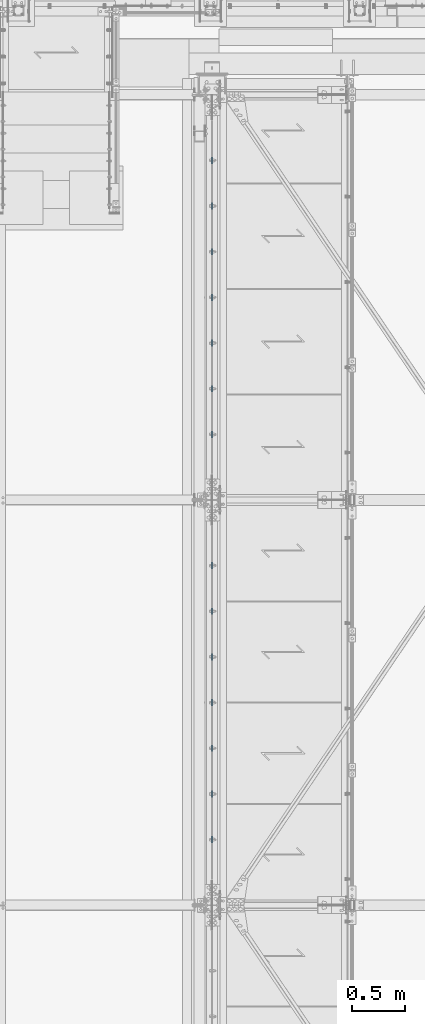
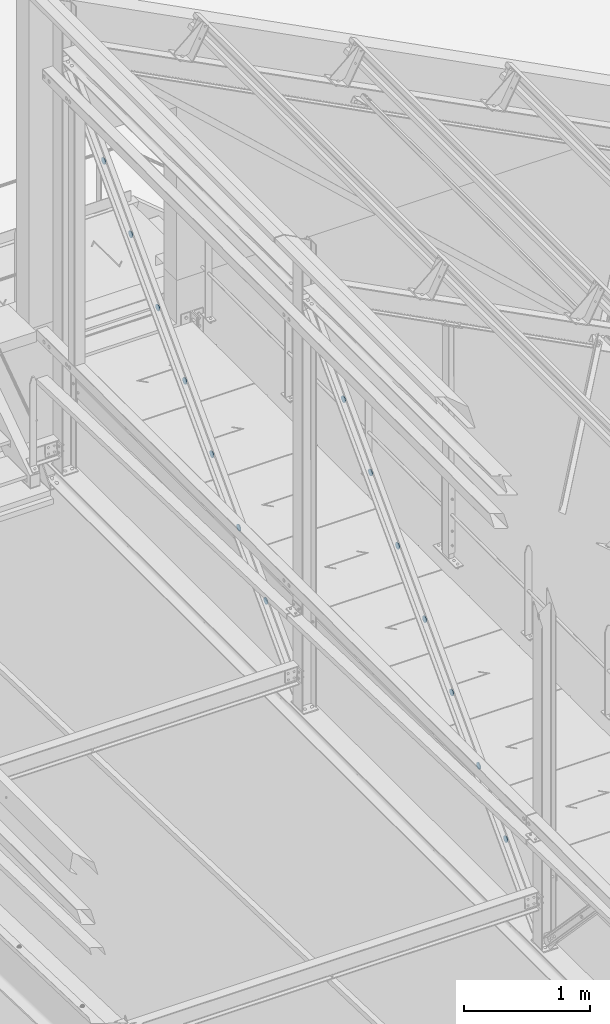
# One storey, part 123 of 362: 14 beams, 14 elements without a shape of their own.
"""IFC2X3 building model written with IfcOpenShell, lengths in millimetres."""

import ifcopenshell
import ifcopenshell.guid

model = None  # the IFC model being written
_history = None  # IfcOwnerHistory: only IFC2X3 demands one
_inside = {}  # id of a spatial element -> (the spatial element, [elements in it])
_under = {}  # id of a project, library or spatial element -> (it, [spatial elements below it])
_declared = {}  # id of a project -> (the project, [libraries it declares])
_typed = {}  # id of a type object -> (the type object, [elements of that type])
_made_of = {}  # id of a material, layer set ... -> (it, [elements and type objects made of it])


def new_model(schema):
    """Start an empty IFC model of exactly this schema.

    Asked for "IFC4X3", IfcOpenShell would pick the latest addendum, in which some entities
    have other attributes; the version numbers below select the first issue.
    IFC2X3 requires an IfcOwnerHistory on every rooted entity: one is made here for all.
    """
    global model, _history
    if schema == "IFC4X3":
        model = ifcopenshell.file(schema_version=(4, 3, 0, 0))
    else:
        model = ifcopenshell.file(schema=schema)
    _inside.clear()
    _under.clear()
    _declared.clear()
    _typed.clear()
    _made_of.clear()
    _history = None
    if model.schema == "IFC2X3":
        org = make("IfcOrganization", Name="unknown")
        user = make(
            "IfcPersonAndOrganization",
            ThePerson=make("IfcPerson", FamilyName="unknown"),
            TheOrganization=org,
        )
        app = make(
            "IfcApplication",
            ApplicationDeveloper=org,
            Version="unknown",
            ApplicationFullName="unknown",
            ApplicationIdentifier="unknown",
        )
        _history = make(
            "IfcOwnerHistory",
            OwningUser=user,
            OwningApplication=app,
            ChangeAction="ADDED",
            CreationDate=0,
        )
    return model


def make(cls, **values):
    """One entity of the class cls with the attributes given. An attribute that is None is left unset."""
    return model.create_entity(
        cls, **{name: value for name, value in values.items() if value is not None}
    )


def rooted(cls, **values):
    """An entity with a GlobalId (a new one), such as an element, a storey or a relation."""
    return make(cls, GlobalId=ifcopenshell.guid.new(), OwnerHistory=_history, **values)


def si_unit(unit_type, name, prefix=None):
    """IfcSIUnit, for example si_unit("LENGTHUNIT", "METRE", prefix="MILLI")."""
    return make("IfcSIUnit", UnitType=unit_type, Prefix=prefix, Name=name)


def assignment(units):
    """IfcUnitAssignment: the units of a project."""
    return None if units is None else make("IfcUnitAssignment", Units=units)


def point(xyz):
    """IfcCartesianPoint."""
    return None if xyz is None else make("IfcCartesianPoint", Coordinates=xyz)


def direction(xyz):
    """IfcDirection."""
    return None if xyz is None else make("IfcDirection", DirectionRatios=xyz)


def frame(location, z_axis=None, x_axis=None):
    """IfcAxis2Placement3D, a coordinate frame: its origin and axes. An axis left out is left unset."""
    return make(
        "IfcAxis2Placement3D",
        Location=point(location),
        Axis=direction(z_axis),
        RefDirection=direction(x_axis),
    )


def frame_2d(location, x_axis=None):
    """IfcAxis2Placement2D, a coordinate frame in the plane: its origin and x axis."""
    return make(
        "IfcAxis2Placement2D", Location=point(location), RefDirection=direction(x_axis)
    )


def origin_with_axes():
    """The frame at (0, 0, 0) with the z axis (0, 0, 1) and the x axis (1, 0, 0) written out."""
    return frame((0.0, 0.0, 0.0), z_axis=(0.0, 0.0, 1.0), x_axis=(1.0, 0.0, 0.0))


def place(relative_to, where):
    """IfcLocalPlacement: puts the frame where relative to a parent placement (None: the world)."""
    return make(
        "IfcLocalPlacement", PlacementRelTo=relative_to, RelativePlacement=where
    )


def context(
    kind, dimensions, precision=None, world=None, true_north=None, identifier=None
):
    """IfcGeometricRepresentationContext, for example the 3D "Model" context."""
    return make(
        "IfcGeometricRepresentationContext",
        ContextIdentifier=identifier,
        ContextType=kind,
        CoordinateSpaceDimension=dimensions,
        Precision=precision,
        WorldCoordinateSystem=world,
        TrueNorth=true_north,
    )


def subcontext(parent, identifier, kind, view, scale=None):
    """IfcGeometricRepresentationSubContext, for example "Body" below "Model"."""
    return make(
        "IfcGeometricRepresentationSubContext",
        ContextIdentifier=identifier,
        ContextType=kind,
        ParentContext=parent,
        TargetScale=scale,
        TargetView=view,
    )


def project(units=None, contexts=None):
    """IfcProject with its units and contexts."""
    return rooted(
        "IfcProject",
        Name="project",
        RepresentationContexts=contexts,
        UnitsInContext=assignment(units),
    )


def spatial(cls, under=None, at=None, **own):
    """A site, building, storey or space (cls), placed at a placement, below another one or the project."""
    s = rooted(cls, ObjectPlacement=at, **own)
    if under is not None:
        _under.setdefault(under.id(), (under, []))[1].append(s)
    return s


def circle_curve(where, radius):
    """IfcCircle in the frame where."""
    return make("IfcCircle", Position=where, Radius=radius)


def parameter(value):
    """IfcParameterValue: where a trimmed curve begins or ends, as a parameter of its basis curve."""
    return model.create_entity("IfcParameterValue", value)


def trimmed(basis, trim1, trim2, sense, master):
    """IfcTrimmedCurve: the piece of a basis curve between two trims."""
    return make(
        "IfcTrimmedCurve",
        BasisCurve=basis,
        Trim1=trim1,
        Trim2=trim2,
        SenseAgreement=sense,
        MasterRepresentation=master,
    )


def segment(curve, same_sense, transition):
    """IfcCompositeCurveSegment."""
    return make(
        "IfcCompositeCurveSegment",
        Transition=transition,
        SameSense=same_sense,
        ParentCurve=curve,
    )


def composite_curve(segments, self_intersect=None):
    """IfcCompositeCurve: segments joined end to end."""
    return make("IfcCompositeCurve", Segments=segments, SelfIntersect=self_intersect)


def outline(outer, holes=None, kind="AREA"):
    """IfcArbitraryClosedProfileDef: a profile drawn as a closed curve; with holes, ...WithVoids."""
    if holes is None:
        return make("IfcArbitraryClosedProfileDef", ProfileType=kind, OuterCurve=outer)
    return make(
        "IfcArbitraryProfileDefWithVoids",
        ProfileType=kind,
        OuterCurve=outer,
        InnerCurves=holes,
    )


def extrude(swept, where, along, depth):
    """IfcExtrudedAreaSolid: the profile swept, set in the frame where, extruded along a direction by depth."""
    return make(
        "IfcExtrudedAreaSolid",
        SweptArea=swept,
        Position=where,
        ExtrudedDirection=direction(along),
        Depth=depth,
    )


def shape(context_of_items, identifier, shape_type, items):
    """IfcShapeRepresentation: the items that make up one representation, for example the "Body"."""
    return make(
        "IfcShapeRepresentation",
        ContextOfItems=context_of_items,
        RepresentationIdentifier=identifier,
        RepresentationType=shape_type,
        Items=items,
    )


def material(Name=None, Category=None):
    """IfcMaterial."""
    return make("IfcMaterial", Name=Name, Category=Category)


def made_of(thing, what):
    """Note that an element or type object is made of a material, layer set ...; save() writes the relation."""
    if what is not None:
        _made_of.setdefault(what.id(), (what, []))[1].append(thing)
    return thing


def type_object(cls, material=None, **own):
    """A type object (cls), such as IfcWallType, which elements share."""
    return made_of(rooted(cls, **own), material)


def element(
    cls,
    number,
    at=None,
    inside=None,
    cuts=None,
    type_object=None,
    material=None,
    context=None,
    identifier="Body",
    shape_type=None,
    held_by="IfcProductDefinitionShape",
    body=None,
    shapes=None,
    **own,
):
    """One element of the class cls, such as IfcWall. Its Tag is "e" and its number.

    at: its placement. inside: the storey or other place that contains it. cuts: it is an
    opening in that element (IfcRelVoidsElement). A single representation is given by context,
    identifier, shape_type and body (its items); several are given by shapes. held_by: the class
    of the entity that holds the representations. save() writes the other relations.
    """
    e = rooted(cls, Tag="e%d" % number, ObjectPlacement=at, **own)
    if body is not None:
        shapes = [shape(context, identifier, shape_type, body)]
    if shapes is not None:
        e.Representation = make(held_by, Representations=shapes)
    if inside is not None:
        _inside.setdefault(inside.id(), (inside, []))[1].append(e)
    if cuts is not None:
        rooted(
            "IfcRelVoidsElement", RelatingBuildingElement=cuts, RelatedOpeningElement=e
        )
    if type_object is not None:
        _typed.setdefault(type_object.id(), (type_object, []))[1].append(e)
    return made_of(e, material)


def aggregate(whole, parts):
    """IfcRelAggregates: a whole, such as a stair, and the parts it consists of."""
    return rooted("IfcRelAggregates", RelatingObject=whole, RelatedObjects=parts)


def save(model, path):
    """Write the relations noted so far, then the file.

    IfcRelAggregates (storeys below a building ...), IfcRelContainedInSpatialStructure (elements
    in a storey), IfcRelDefinesByType, IfcRelAssociatesMaterial and IfcRelDeclares: one each for
    every whole, place, type object, material and project.
    """
    for whole, parts in _under.values():
        aggregate(whole, parts)
    for where, things in _inside.values():
        rooted(
            "IfcRelContainedInSpatialStructure",
            RelatedElements=things,
            RelatingStructure=where,
        )
    for kind, things in _typed.values():
        rooted("IfcRelDefinesByType", RelatedObjects=things, RelatingType=kind)
    for what, things in _made_of.values():
        rooted("IfcRelAssociatesMaterial", RelatedObjects=things, RelatingMaterial=what)
    for by, libraries in _declared.values():
        rooted("IfcRelDeclares", RelatingContext=by, RelatedDefinitions=libraries)
    model.write(path)


model = new_model("IFC2X3")

# Units and contexts
model_context = context("Model", 3, precision=1e-05, world=origin_with_axes())
body_context = subcontext(model_context, "Body", "Model", "MODEL_VIEW")
ifc_project = project(units=[si_unit("LENGTHUNIT", "METRE", prefix="MILLI"), si_unit("AREAUNIT", "SQUARE_METRE"), si_unit("VOLUMEUNIT", "CUBIC_METRE"), si_unit("MASSUNIT", "GRAM", prefix="KILO"), si_unit("TIMEUNIT", "SECOND"), si_unit("PLANEANGLEUNIT", "RADIAN"), si_unit("SOLIDANGLEUNIT", "STERADIAN"), si_unit("THERMODYNAMICTEMPERATUREUNIT", "DEGREE_CELSIUS"), si_unit("LUMINOUSINTENSITYUNIT", "LUMEN")], contexts=[model_context])

# Site, building, storey
site_placement = place(None, origin_with_axes())
site = spatial("IfcSite", under=ifc_project, at=site_placement, Name="Undefined", CompositionType="ELEMENT")
building_placement = place(site_placement, origin_with_axes())
building = spatial("IfcBuilding", under=site, at=building_placement, Name="Undefined", CompositionType="ELEMENT")
storey_placement = place(building_placement, origin_with_axes())
storey = spatial("IfcBuildingStorey", under=building, at=storey_placement, Name="Undefined", CompositionType="ELEMENT", Elevation=0.0)

# Assembly, beam
assembly_1_placement = place(storey_placement, origin_with_axes())
assembly_1 = element("IfcElementAssembly", 1, at=assembly_1_placement, inside=storey, AssemblyPlace="NOTDEFINED", PredefinedType="NOTDEFINED")
ifc_material = material(Name="Undefined/S235-E24")
beam_type = type_object("IfcBeamType", Name="TOLE8*60", PredefinedType="NOTDEFINED")
beam_1_placement = place(assembly_1_placement, frame((23470.0, 8184.72861217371, 7924.81795332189), z_axis=(-1.0, 0.0, 0.0), x_axis=(0.0, 1.0, 0.0)))
beam_1 = element("IfcBeam", 2, at=beam_1_placement, type_object=beam_type, material=ifc_material, Name="PLAQUETTE", ObjectType="TOLE8*60", context=body_context, shape_type="SweptSolid", body=[
    extrude(outline(composite_curve([segment(trimmed(circle_curve(frame_2d((30.0, 30.0), x_axis=(-1.0, 0.0)), 30.0), [parameter(0.0)], [parameter(1.5707963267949)], True, "PARAMETER"), True, "CONTINUOUS"), segment(trimmed(circle_curve(frame_2d((30.0, 30.0), x_axis=(0.0, -1.0)), 30.0), [parameter(0.0)], [parameter(1.5707963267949)], True, "PARAMETER"), True, "CONTINUOUS"), segment(trimmed(circle_curve(frame_2d((30.0, 30.0), x_axis=(1.0, 0.0)), 30.0), [parameter(0.0)], [parameter(1.5707963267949)], True, "PARAMETER"), True, "CONTINUOUS"), segment(trimmed(circle_curve(frame_2d((30.0, 30.0), x_axis=(0.0, 1.0)), 30.0), [parameter(0.0)], [parameter(1.5707963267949)], True, "PARAMETER"), True, "CONTINUOUS")], self_intersect=True)), frame((0.0, 0.0, -4.0), z_axis=(0.0, 0.0, 1.0), x_axis=(1.0, 0.0, 0.0)), (0.0, 0.0, 1.0), 8.0),
])
aggregate(assembly_1, [beam_1])

assembly_2_placement = place(storey_placement, origin_with_axes())
assembly_2 = element("IfcElementAssembly", 3, at=assembly_2_placement, inside=storey, AssemblyPlace="NOTDEFINED", PredefinedType="NOTDEFINED")
beam_2_placement = place(assembly_2_placement, frame((23470.0, 8613.15240842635, 8374.21196859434), z_axis=(-1.0, 0.0, 0.0), x_axis=(0.0, 1.0, 0.0)))
beam_2 = element("IfcBeam", 4, at=beam_2_placement, type_object=beam_type, material=ifc_material, Name="PLAQUETTE", ObjectType="TOLE8*60", context=body_context, shape_type="SweptSolid", body=[
    extrude(outline(composite_curve([segment(trimmed(circle_curve(frame_2d((30.0, 30.0), x_axis=(-1.0, 0.0)), 30.0), [parameter(0.0)], [parameter(1.5707963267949)], True, "PARAMETER"), True, "CONTINUOUS"), segment(trimmed(circle_curve(frame_2d((30.0, 30.0), x_axis=(0.0, -1.0)), 30.0), [parameter(0.0)], [parameter(1.5707963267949)], True, "PARAMETER"), True, "CONTINUOUS"), segment(trimmed(circle_curve(frame_2d((30.0, 30.0), x_axis=(1.0, 0.0)), 30.0), [parameter(0.0)], [parameter(1.5707963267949)], True, "PARAMETER"), True, "CONTINUOUS"), segment(trimmed(circle_curve(frame_2d((30.0, 30.0), x_axis=(0.0, 1.0)), 30.0), [parameter(0.0)], [parameter(1.5707963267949)], True, "PARAMETER"), True, "CONTINUOUS")], self_intersect=True)), frame((0.0, 0.0, -4.0), z_axis=(0.0, 0.0, 1.0), x_axis=(1.0, 0.0, 0.0)), (0.0, 0.0, 1.0), 8.0),
])
aggregate(assembly_2, [beam_2])

assembly_3_placement = place(storey_placement, origin_with_axes())
assembly_3 = element("IfcElementAssembly", 5, at=assembly_3_placement, inside=storey, AssemblyPlace="NOTDEFINED", PredefinedType="NOTDEFINED")
beam_3_placement = place(assembly_3_placement, frame((23470.0, 9041.576204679, 8823.60598386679), z_axis=(-1.0, 0.0, 0.0), x_axis=(0.0, 1.0, 0.0)))
beam_3 = element("IfcBeam", 6, at=beam_3_placement, type_object=beam_type, material=ifc_material, Name="PLAQUETTE", ObjectType="TOLE8*60", context=body_context, shape_type="SweptSolid", body=[
    extrude(outline(composite_curve([segment(trimmed(circle_curve(frame_2d((30.0, 30.0), x_axis=(-1.0, 0.0)), 30.0), [parameter(0.0)], [parameter(1.5707963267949)], True, "PARAMETER"), True, "CONTINUOUS"), segment(trimmed(circle_curve(frame_2d((30.0, 30.0), x_axis=(0.0, -1.0)), 30.0), [parameter(0.0)], [parameter(1.5707963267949)], True, "PARAMETER"), True, "CONTINUOUS"), segment(trimmed(circle_curve(frame_2d((30.0, 30.0), x_axis=(1.0, 0.0)), 30.0), [parameter(0.0)], [parameter(1.5707963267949)], True, "PARAMETER"), True, "CONTINUOUS"), segment(trimmed(circle_curve(frame_2d((30.0, 30.0), x_axis=(0.0, 1.0)), 30.0), [parameter(0.0)], [parameter(1.5707963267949)], True, "PARAMETER"), True, "CONTINUOUS")], self_intersect=True)), frame((0.0, 0.0, -4.0), z_axis=(0.0, 0.0, 1.0), x_axis=(1.0, 0.0, 0.0)), (0.0, 0.0, 1.0), 8.0),
])
aggregate(assembly_3, [beam_3])

assembly_4_placement = place(storey_placement, origin_with_axes())
assembly_4 = element("IfcElementAssembly", 7, at=assembly_4_placement, inside=storey, AssemblyPlace="NOTDEFINED", PredefinedType="NOTDEFINED")
beam_4_placement = place(assembly_4_placement, frame((23470.0, 9470.00000093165, 9272.99999913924), z_axis=(-1.0, 0.0, 0.0), x_axis=(0.0, 1.0, 0.0)))
beam_4 = element("IfcBeam", 8, at=beam_4_placement, type_object=beam_type, material=ifc_material, Name="PLAQUETTE", ObjectType="TOLE8*60", context=body_context, shape_type="SweptSolid", body=[
    extrude(outline(composite_curve([segment(trimmed(circle_curve(frame_2d((30.0, 30.0), x_axis=(-1.0, 0.0)), 30.0), [parameter(0.0)], [parameter(1.5707963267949)], True, "PARAMETER"), True, "CONTINUOUS"), segment(trimmed(circle_curve(frame_2d((30.0, 30.0), x_axis=(0.0, -1.0)), 30.0), [parameter(0.0)], [parameter(1.5707963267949)], True, "PARAMETER"), True, "CONTINUOUS"), segment(trimmed(circle_curve(frame_2d((30.0, 30.0), x_axis=(1.0, 0.0)), 30.0), [parameter(0.0)], [parameter(1.5707963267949)], True, "PARAMETER"), True, "CONTINUOUS"), segment(trimmed(circle_curve(frame_2d((30.0, 30.0), x_axis=(0.0, 1.0)), 30.0), [parameter(0.0)], [parameter(1.5707963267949)], True, "PARAMETER"), True, "CONTINUOUS")], self_intersect=True)), frame((0.0, 0.0, -4.0), z_axis=(0.0, 0.0, 1.0), x_axis=(1.0, 0.0, 0.0)), (0.0, 0.0, 1.0), 8.0),
])
aggregate(assembly_4, [beam_4])

assembly_5_placement = place(storey_placement, origin_with_axes())
assembly_5 = element("IfcElementAssembly", 9, at=assembly_5_placement, inside=storey, AssemblyPlace="NOTDEFINED", PredefinedType="NOTDEFINED")
beam_5_placement = place(assembly_5_placement, frame((23470.0, 9898.4237971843, 9722.39401441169), z_axis=(-1.0, 0.0, 0.0), x_axis=(0.0, 1.0, 0.0)))
beam_5 = element("IfcBeam", 10, at=beam_5_placement, type_object=beam_type, material=ifc_material, Name="PLAQUETTE", ObjectType="TOLE8*60", context=body_context, shape_type="SweptSolid", body=[
    extrude(outline(composite_curve([segment(trimmed(circle_curve(frame_2d((30.0, 30.0), x_axis=(-1.0, 0.0)), 30.0), [parameter(0.0)], [parameter(1.5707963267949)], True, "PARAMETER"), True, "CONTINUOUS"), segment(trimmed(circle_curve(frame_2d((30.0, 30.0), x_axis=(0.0, -1.0)), 30.0), [parameter(0.0)], [parameter(1.5707963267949)], True, "PARAMETER"), True, "CONTINUOUS"), segment(trimmed(circle_curve(frame_2d((30.0, 30.0), x_axis=(1.0, 0.0)), 30.0), [parameter(0.0)], [parameter(1.5707963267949)], True, "PARAMETER"), True, "CONTINUOUS"), segment(trimmed(circle_curve(frame_2d((30.0, 30.0), x_axis=(0.0, 1.0)), 30.0), [parameter(0.0)], [parameter(1.5707963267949)], True, "PARAMETER"), True, "CONTINUOUS")], self_intersect=True)), frame((0.0, 0.0, -4.0), z_axis=(0.0, 0.0, 1.0), x_axis=(1.0, 0.0, 0.0)), (0.0, 0.0, 1.0), 8.0),
])
aggregate(assembly_5, [beam_5])

assembly_6_placement = place(storey_placement, origin_with_axes())
assembly_6 = element("IfcElementAssembly", 11, at=assembly_6_placement, inside=storey, AssemblyPlace="NOTDEFINED", PredefinedType="NOTDEFINED")
beam_6_placement = place(assembly_6_placement, frame((23470.0, 10326.8475934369, 10171.7880296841), z_axis=(-1.0, 0.0, 0.0), x_axis=(0.0, 1.0, 0.0)))
beam_6 = element("IfcBeam", 12, at=beam_6_placement, type_object=beam_type, material=ifc_material, Name="PLAQUETTE", ObjectType="TOLE8*60", context=body_context, shape_type="SweptSolid", body=[
    extrude(outline(composite_curve([segment(trimmed(circle_curve(frame_2d((30.0, 30.0), x_axis=(-1.0, 0.0)), 30.0), [parameter(0.0)], [parameter(1.5707963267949)], True, "PARAMETER"), True, "CONTINUOUS"), segment(trimmed(circle_curve(frame_2d((30.0, 30.0), x_axis=(0.0, -1.0)), 30.0), [parameter(0.0)], [parameter(1.5707963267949)], True, "PARAMETER"), True, "CONTINUOUS"), segment(trimmed(circle_curve(frame_2d((30.0, 30.0), x_axis=(1.0, 0.0)), 30.0), [parameter(0.0)], [parameter(1.5707963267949)], True, "PARAMETER"), True, "CONTINUOUS"), segment(trimmed(circle_curve(frame_2d((30.0, 30.0), x_axis=(0.0, 1.0)), 30.0), [parameter(0.0)], [parameter(1.5707963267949)], True, "PARAMETER"), True, "CONTINUOUS")], self_intersect=True)), frame((0.0, 0.0, -4.0), z_axis=(0.0, 0.0, 1.0), x_axis=(1.0, 0.0, 0.0)), (0.0, 0.0, 1.0), 8.0),
])
aggregate(assembly_6, [beam_6])

assembly_7_placement = place(storey_placement, origin_with_axes())
assembly_7 = element("IfcElementAssembly", 13, at=assembly_7_placement, inside=storey, AssemblyPlace="NOTDEFINED", PredefinedType="NOTDEFINED")
beam_7_placement = place(assembly_7_placement, frame((23470.0, 10755.2713896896, 10621.1820449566), z_axis=(-1.0, 0.0, 0.0), x_axis=(0.0, 1.0, 0.0)))
beam_7 = element("IfcBeam", 14, at=beam_7_placement, type_object=beam_type, material=ifc_material, Name="PLAQUETTE", ObjectType="TOLE8*60", context=body_context, shape_type="SweptSolid", body=[
    extrude(outline(composite_curve([segment(trimmed(circle_curve(frame_2d((30.0, 30.0), x_axis=(-1.0, 0.0)), 30.0), [parameter(0.0)], [parameter(1.5707963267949)], True, "PARAMETER"), True, "CONTINUOUS"), segment(trimmed(circle_curve(frame_2d((30.0, 30.0), x_axis=(0.0, -1.0)), 30.0), [parameter(0.0)], [parameter(1.5707963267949)], True, "PARAMETER"), True, "CONTINUOUS"), segment(trimmed(circle_curve(frame_2d((30.0, 30.0), x_axis=(1.0, 0.0)), 30.0), [parameter(0.0)], [parameter(1.5707963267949)], True, "PARAMETER"), True, "CONTINUOUS"), segment(trimmed(circle_curve(frame_2d((30.0, 30.0), x_axis=(0.0, 1.0)), 30.0), [parameter(0.0)], [parameter(1.5707963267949)], True, "PARAMETER"), True, "CONTINUOUS")], self_intersect=True)), frame((0.0, 0.0, -4.0), z_axis=(0.0, 0.0, 1.0), x_axis=(1.0, 0.0, 0.0)), (0.0, 0.0, 1.0), 8.0),
])
aggregate(assembly_7, [beam_7])

assembly_8_placement = place(storey_placement, origin_with_axes())
assembly_8 = element("IfcElementAssembly", 15, at=assembly_8_placement, inside=storey, AssemblyPlace="NOTDEFINED", PredefinedType="NOTDEFINED")
beam_8_placement = place(assembly_8_placement, frame((23470.0, 14555.2713896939, 10621.1820449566), z_axis=(-1.0, 0.0, 0.0), x_axis=(0.0, 1.0, 0.0)))
beam_8 = element("IfcBeam", 16, at=beam_8_placement, type_object=beam_type, material=ifc_material, Name="PLAQUETTE", ObjectType="TOLE8*60", context=body_context, shape_type="SweptSolid", body=[
    extrude(outline(composite_curve([segment(trimmed(circle_curve(frame_2d((30.0, 30.0), x_axis=(-1.0, 0.0)), 30.0), [parameter(0.0)], [parameter(1.5707963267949)], True, "PARAMETER"), True, "CONTINUOUS"), segment(trimmed(circle_curve(frame_2d((30.0, 30.0), x_axis=(0.0, -1.0)), 30.0), [parameter(0.0)], [parameter(1.5707963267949)], True, "PARAMETER"), True, "CONTINUOUS"), segment(trimmed(circle_curve(frame_2d((30.0, 30.0), x_axis=(1.0, 0.0)), 30.0), [parameter(0.0)], [parameter(1.5707963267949)], True, "PARAMETER"), True, "CONTINUOUS"), segment(trimmed(circle_curve(frame_2d((30.0, 30.0), x_axis=(0.0, 1.0)), 30.0), [parameter(0.0)], [parameter(1.5707963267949)], True, "PARAMETER"), True, "CONTINUOUS")], self_intersect=True)), frame((0.0, 0.0, -4.0), z_axis=(0.0, 0.0, 1.0), x_axis=(1.0, 0.0, 0.0)), (0.0, 0.0, 1.0), 8.0),
])
aggregate(assembly_8, [beam_8])

assembly_9_placement = place(storey_placement, origin_with_axes())
assembly_9 = element("IfcElementAssembly", 17, at=assembly_9_placement, inside=storey, AssemblyPlace="NOTDEFINED", PredefinedType="NOTDEFINED")
beam_9_placement = place(assembly_9_placement, frame((23470.0, 14126.8475934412, 10171.7880296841), z_axis=(-1.0, 0.0, 0.0), x_axis=(0.0, 1.0, 0.0)))
beam_9 = element("IfcBeam", 18, at=beam_9_placement, type_object=beam_type, material=ifc_material, Name="PLAQUETTE", ObjectType="TOLE8*60", context=body_context, shape_type="SweptSolid", body=[
    extrude(outline(composite_curve([segment(trimmed(circle_curve(frame_2d((30.0, 30.0), x_axis=(-1.0, 0.0)), 30.0), [parameter(0.0)], [parameter(1.5707963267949)], True, "PARAMETER"), True, "CONTINUOUS"), segment(trimmed(circle_curve(frame_2d((30.0, 30.0), x_axis=(0.0, -1.0)), 30.0), [parameter(0.0)], [parameter(1.5707963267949)], True, "PARAMETER"), True, "CONTINUOUS"), segment(trimmed(circle_curve(frame_2d((30.0, 30.0), x_axis=(1.0, 0.0)), 30.0), [parameter(0.0)], [parameter(1.5707963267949)], True, "PARAMETER"), True, "CONTINUOUS"), segment(trimmed(circle_curve(frame_2d((30.0, 30.0), x_axis=(0.0, 1.0)), 30.0), [parameter(0.0)], [parameter(1.5707963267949)], True, "PARAMETER"), True, "CONTINUOUS")], self_intersect=True)), frame((0.0, 0.0, -4.0), z_axis=(0.0, 0.0, 1.0), x_axis=(1.0, 0.0, 0.0)), (0.0, 0.0, 1.0), 8.0),
])
aggregate(assembly_9, [beam_9])

assembly_10_placement = place(storey_placement, origin_with_axes())
assembly_10 = element("IfcElementAssembly", 19, at=assembly_10_placement, inside=storey, AssemblyPlace="NOTDEFINED", PredefinedType="NOTDEFINED")
beam_10_placement = place(assembly_10_placement, frame((23470.0, 13698.4237971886, 9722.39401441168), z_axis=(-1.0, 0.0, 0.0), x_axis=(0.0, 1.0, 0.0)))
beam_10 = element("IfcBeam", 20, at=beam_10_placement, type_object=beam_type, material=ifc_material, Name="PLAQUETTE", ObjectType="TOLE8*60", context=body_context, shape_type="SweptSolid", body=[
    extrude(outline(composite_curve([segment(trimmed(circle_curve(frame_2d((30.0, 30.0), x_axis=(-1.0, 0.0)), 30.0), [parameter(0.0)], [parameter(1.5707963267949)], True, "PARAMETER"), True, "CONTINUOUS"), segment(trimmed(circle_curve(frame_2d((30.0, 30.0), x_axis=(0.0, -1.0)), 30.0), [parameter(0.0)], [parameter(1.5707963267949)], True, "PARAMETER"), True, "CONTINUOUS"), segment(trimmed(circle_curve(frame_2d((30.0, 30.0), x_axis=(1.0, 0.0)), 30.0), [parameter(0.0)], [parameter(1.5707963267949)], True, "PARAMETER"), True, "CONTINUOUS"), segment(trimmed(circle_curve(frame_2d((30.0, 30.0), x_axis=(0.0, 1.0)), 30.0), [parameter(0.0)], [parameter(1.5707963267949)], True, "PARAMETER"), True, "CONTINUOUS")], self_intersect=True)), frame((0.0, 0.0, -4.0), z_axis=(0.0, 0.0, 1.0), x_axis=(1.0, 0.0, 0.0)), (0.0, 0.0, 1.0), 8.0),
])
aggregate(assembly_10, [beam_10])

assembly_11_placement = place(storey_placement, origin_with_axes())
assembly_11 = element("IfcElementAssembly", 21, at=assembly_11_placement, inside=storey, AssemblyPlace="NOTDEFINED", PredefinedType="NOTDEFINED")
beam_11_placement = place(assembly_11_placement, frame((23470.0, 13270.0000009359, 9272.99999913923), z_axis=(-1.0, 0.0, 0.0), x_axis=(0.0, 1.0, 0.0)))
beam_11 = element("IfcBeam", 22, at=beam_11_placement, type_object=beam_type, material=ifc_material, Name="PLAQUETTE", ObjectType="TOLE8*60", context=body_context, shape_type="SweptSolid", body=[
    extrude(outline(composite_curve([segment(trimmed(circle_curve(frame_2d((30.0, 30.0), x_axis=(-1.0, 0.0)), 30.0), [parameter(0.0)], [parameter(1.5707963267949)], True, "PARAMETER"), True, "CONTINUOUS"), segment(trimmed(circle_curve(frame_2d((30.0, 30.0), x_axis=(0.0, -1.0)), 30.0), [parameter(0.0)], [parameter(1.5707963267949)], True, "PARAMETER"), True, "CONTINUOUS"), segment(trimmed(circle_curve(frame_2d((30.0, 30.0), x_axis=(1.0, 0.0)), 30.0), [parameter(0.0)], [parameter(1.5707963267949)], True, "PARAMETER"), True, "CONTINUOUS"), segment(trimmed(circle_curve(frame_2d((30.0, 30.0), x_axis=(0.0, 1.0)), 30.0), [parameter(0.0)], [parameter(1.5707963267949)], True, "PARAMETER"), True, "CONTINUOUS")], self_intersect=True)), frame((0.0, 0.0, -4.0), z_axis=(0.0, 0.0, 1.0), x_axis=(1.0, 0.0, 0.0)), (0.0, 0.0, 1.0), 8.0),
])
aggregate(assembly_11, [beam_11])

assembly_12_placement = place(storey_placement, origin_with_axes())
assembly_12 = element("IfcElementAssembly", 23, at=assembly_12_placement, inside=storey, AssemblyPlace="NOTDEFINED", PredefinedType="NOTDEFINED")
beam_12_placement = place(assembly_12_placement, frame((23470.0, 12841.5762046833, 8823.60598386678), z_axis=(-1.0, 0.0, 0.0), x_axis=(0.0, 1.0, 0.0)))
beam_12 = element("IfcBeam", 24, at=beam_12_placement, type_object=beam_type, material=ifc_material, Name="PLAQUETTE", ObjectType="TOLE8*60", context=body_context, shape_type="SweptSolid", body=[
    extrude(outline(composite_curve([segment(trimmed(circle_curve(frame_2d((30.0, 30.0), x_axis=(-1.0, 0.0)), 30.0), [parameter(0.0)], [parameter(1.5707963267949)], True, "PARAMETER"), True, "CONTINUOUS"), segment(trimmed(circle_curve(frame_2d((30.0, 30.0), x_axis=(0.0, -1.0)), 30.0), [parameter(0.0)], [parameter(1.5707963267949)], True, "PARAMETER"), True, "CONTINUOUS"), segment(trimmed(circle_curve(frame_2d((30.0, 30.0), x_axis=(1.0, 0.0)), 30.0), [parameter(0.0)], [parameter(1.5707963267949)], True, "PARAMETER"), True, "CONTINUOUS"), segment(trimmed(circle_curve(frame_2d((30.0, 30.0), x_axis=(0.0, 1.0)), 30.0), [parameter(0.0)], [parameter(1.5707963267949)], True, "PARAMETER"), True, "CONTINUOUS")], self_intersect=True)), frame((0.0, 0.0, -4.0), z_axis=(0.0, 0.0, 1.0), x_axis=(1.0, 0.0, 0.0)), (0.0, 0.0, 1.0), 8.0),
])
aggregate(assembly_12, [beam_12])

assembly_13_placement = place(storey_placement, origin_with_axes())
assembly_13 = element("IfcElementAssembly", 25, at=assembly_13_placement, inside=storey, AssemblyPlace="NOTDEFINED", PredefinedType="NOTDEFINED")
beam_13_placement = place(assembly_13_placement, frame((23470.0, 12413.1524084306, 8374.21196859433), z_axis=(-1.0, 0.0, 0.0), x_axis=(0.0, 1.0, 0.0)))
beam_13 = element("IfcBeam", 26, at=beam_13_placement, type_object=beam_type, material=ifc_material, Name="PLAQUETTE", ObjectType="TOLE8*60", context=body_context, shape_type="SweptSolid", body=[
    extrude(outline(composite_curve([segment(trimmed(circle_curve(frame_2d((30.0, 30.0), x_axis=(-1.0, 0.0)), 30.0), [parameter(0.0)], [parameter(1.5707963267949)], True, "PARAMETER"), True, "CONTINUOUS"), segment(trimmed(circle_curve(frame_2d((30.0, 30.0), x_axis=(0.0, -1.0)), 30.0), [parameter(0.0)], [parameter(1.5707963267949)], True, "PARAMETER"), True, "CONTINUOUS"), segment(trimmed(circle_curve(frame_2d((30.0, 30.0), x_axis=(1.0, 0.0)), 30.0), [parameter(0.0)], [parameter(1.5707963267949)], True, "PARAMETER"), True, "CONTINUOUS"), segment(trimmed(circle_curve(frame_2d((30.0, 30.0), x_axis=(0.0, 1.0)), 30.0), [parameter(0.0)], [parameter(1.5707963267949)], True, "PARAMETER"), True, "CONTINUOUS")], self_intersect=True)), frame((0.0, 0.0, -4.0), z_axis=(0.0, 0.0, 1.0), x_axis=(1.0, 0.0, 0.0)), (0.0, 0.0, 1.0), 8.0),
])
aggregate(assembly_13, [beam_13])

assembly_14_placement = place(storey_placement, origin_with_axes())
assembly_14 = element("IfcElementAssembly", 27, at=assembly_14_placement, inside=storey, AssemblyPlace="NOTDEFINED", PredefinedType="NOTDEFINED")
beam_14_placement = place(assembly_14_placement, frame((23470.0, 11984.728612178, 7924.81795332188), z_axis=(-1.0, 0.0, 0.0), x_axis=(0.0, 1.0, 0.0)))
beam_14 = element("IfcBeam", 28, at=beam_14_placement, type_object=beam_type, material=ifc_material, Name="PLAQUETTE", ObjectType="TOLE8*60", context=body_context, shape_type="SweptSolid", body=[
    extrude(outline(composite_curve([segment(trimmed(circle_curve(frame_2d((30.0, 30.0), x_axis=(-1.0, 0.0)), 30.0), [parameter(0.0)], [parameter(1.5707963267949)], True, "PARAMETER"), True, "CONTINUOUS"), segment(trimmed(circle_curve(frame_2d((30.0, 30.0), x_axis=(0.0, -1.0)), 30.0), [parameter(0.0)], [parameter(1.5707963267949)], True, "PARAMETER"), True, "CONTINUOUS"), segment(trimmed(circle_curve(frame_2d((30.0, 30.0), x_axis=(1.0, 0.0)), 30.0), [parameter(0.0)], [parameter(1.5707963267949)], True, "PARAMETER"), True, "CONTINUOUS"), segment(trimmed(circle_curve(frame_2d((30.0, 30.0), x_axis=(0.0, 1.0)), 30.0), [parameter(0.0)], [parameter(1.5707963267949)], True, "PARAMETER"), True, "CONTINUOUS")], self_intersect=True)), frame((0.0, 0.0, -4.0), z_axis=(0.0, 0.0, 1.0), x_axis=(1.0, 0.0, 0.0)), (0.0, 0.0, 1.0), 8.0),
])
aggregate(assembly_14, [beam_14])

save(model, "model.ifc")
